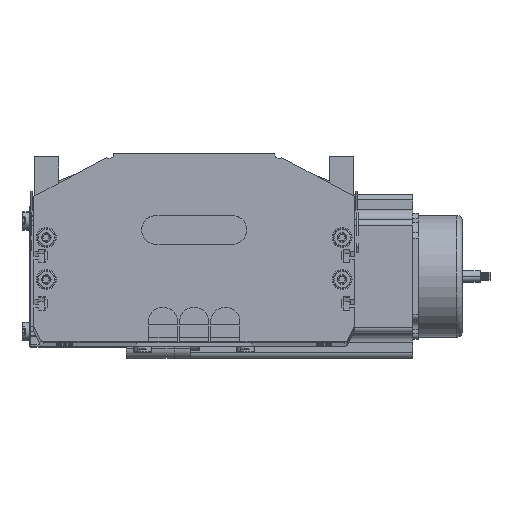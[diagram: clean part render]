
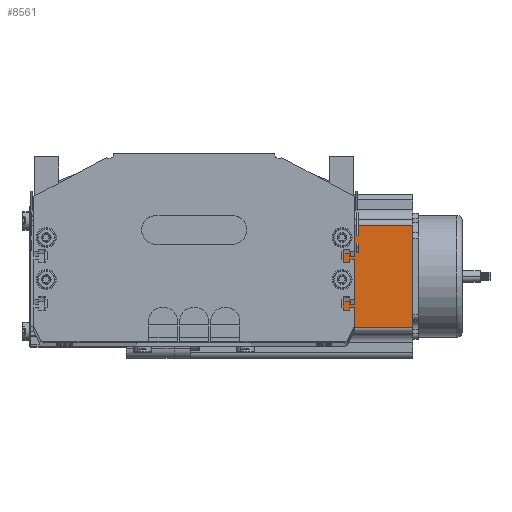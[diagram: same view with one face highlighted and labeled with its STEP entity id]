
A CAD part, top view. The second image highlights one B-rep face of the part: STEP entity #8561.
In plain terms, the highlighted planar face has unit normal (0, 0, 1) as drawn and (0, -1, 0) by its records, which use the part's own axes.
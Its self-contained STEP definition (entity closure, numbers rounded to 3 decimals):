
#8472 = VERTEX_POINT ( 'NONE', #76694 ) ;
#8474 = ORIENTED_EDGE ( 'NONE', *, *, #8548, .T. ) ;
#8479 = ORIENTED_EDGE ( 'NONE', *, *, #8662, .T. ) ;
#8480 = ORIENTED_EDGE ( 'NONE', *, *, #8540, .T. ) ;
#8481 = EDGE_CURVE ( 'NONE', #8472, #8546, #76699, .T. ) ;
#8539 = EDGE_LOOP ( 'NONE', ( #8474, #8480, #8660, #8479 ) ) ;
#8540 = EDGE_CURVE ( 'NONE', #8555, #8546, #76923, .T. ) ;
#8546 = VERTEX_POINT ( 'NONE', #76924 ) ;
#8548 = EDGE_CURVE ( 'NONE', #8554, #8555, #76914, .T. ) ;
#8554 = VERTEX_POINT ( 'NONE', #76900 ) ;
#8555 = VERTEX_POINT ( 'NONE', #76899 ) ;
#8561 = ADVANCED_FACE ( 'NONE', ( #76957 ), #76951, .F. ) ;
#8660 = ORIENTED_EDGE ( 'NONE', *, *, #8481, .F. ) ;
#8662 = EDGE_CURVE ( 'NONE', #8472, #8554, #77064, .T. ) ;
#76694 = CARTESIAN_POINT ( 'NONE',  ( 16.16, 0., 116.5 ) ) ;
#76699 = LINE ( 'NONE', #76739, #76738 ) ;
#76737 = DIRECTION ( 'NONE',  ( 1., 0., 0. ) ) ;
#76738 = VECTOR ( 'NONE', #76737, 1000. ) ;
#76739 = CARTESIAN_POINT ( 'NONE',  ( 0., 0., 116.5 ) ) ;
#76899 = CARTESIAN_POINT ( 'NONE',  ( 69.74, 0., 0. ) ) ;
#76900 = CARTESIAN_POINT ( 'NONE',  ( 16.16, 0., 0. ) ) ;
#76903 = AXIS2_PLACEMENT_3D ( 'NONE', #76946, #76945, #76944 ) ;
#76909 = DIRECTION ( 'NONE',  ( 0., 0., 1. ) ) ;
#76910 = VECTOR ( 'NONE', #76909, 1000. ) ;
#76911 = CARTESIAN_POINT ( 'NONE',  ( 69.74, 0., 116.5 ) ) ;
#76912 = VECTOR ( 'NONE', #76965, 1000. ) ;
#76913 = CARTESIAN_POINT ( 'NONE',  ( 0., 0., 0. ) ) ;
#76914 = LINE ( 'NONE', #76913, #76912 ) ;
#76923 = LINE ( 'NONE', #76911, #76910 ) ;
#76924 = CARTESIAN_POINT ( 'NONE',  ( 69.74, 0., 116.5 ) ) ;
#76944 = DIRECTION ( 'NONE',  ( 0., 0., 1. ) ) ;
#76945 = DIRECTION ( 'NONE',  ( 0., 1., 0. ) ) ;
#76946 = CARTESIAN_POINT ( 'NONE',  ( 0., 0., 116.5 ) ) ;
#76951 = PLANE ( 'NONE',  #76903 ) ;
#76957 = FACE_OUTER_BOUND ( 'NONE', #8539, .T. ) ;
#76965 = DIRECTION ( 'NONE',  ( 1., 0., 0. ) ) ;
#77050 = CARTESIAN_POINT ( 'NONE',  ( 16.16, 0., 116.5 ) ) ;
#77064 = LINE ( 'NONE', #77050, #77107 ) ;
#77106 = DIRECTION ( 'NONE',  ( 0., 0., -1. ) ) ;
#77107 = VECTOR ( 'NONE', #77106, 1000. ) ;
